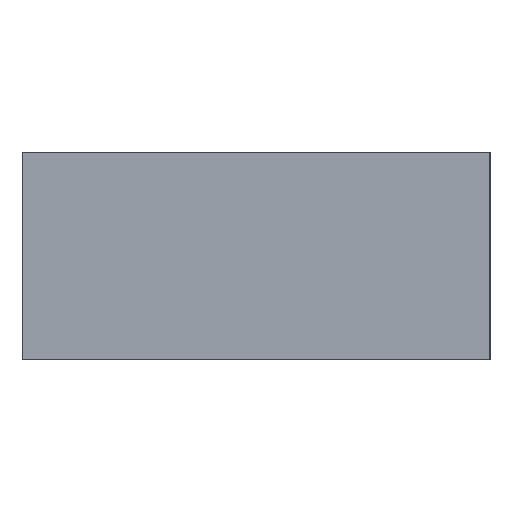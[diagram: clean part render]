
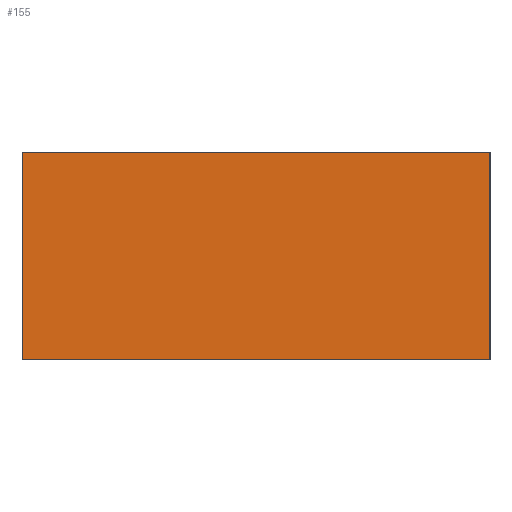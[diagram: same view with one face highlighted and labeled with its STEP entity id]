
A CAD part, left-side view. The second image highlights one B-rep face of the part: STEP entity #155.
In plain terms, the highlighted planar face has unit normal (-1, 0, 0).
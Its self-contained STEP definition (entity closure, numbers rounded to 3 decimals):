
#24=DIRECTION('',(0.,-1.,0.));
#25=VECTOR('',#24,3.);
#26=CARTESIAN_POINT('',(-4.,1.5,0.));
#27=LINE('',#26,#25);
#53=DIRECTION('',(0.,0.,-1.));
#54=VECTOR('',#53,1.33);
#55=CARTESIAN_POINT('',(-4.,1.5,0.));
#56=LINE('',#55,#54);
#60=DIRECTION('',(0.,0.,-1.));
#61=VECTOR('',#60,1.33);
#62=CARTESIAN_POINT('',(-4.,-1.5,0.));
#63=LINE('',#62,#61);
#81=DIRECTION('',(0.,-1.,0.));
#82=VECTOR('',#81,3.);
#83=CARTESIAN_POINT('',(-4.,1.5,-1.33));
#84=LINE('',#83,#82);
#109=CARTESIAN_POINT('',(-4.,1.5,0.));
#110=CARTESIAN_POINT('',(-4.,-1.5,0.));
#111=VERTEX_POINT('',#109);
#112=VERTEX_POINT('',#110);
#117=CARTESIAN_POINT('',(-4.,1.5,-1.33));
#118=CARTESIAN_POINT('',(-4.,-1.5,-1.33));
#119=VERTEX_POINT('',#117);
#120=VERTEX_POINT('',#118);
#141=CARTESIAN_POINT('',(-4.,1.5,0.));
#142=DIRECTION('',(-1.,0.,0.));
#143=DIRECTION('',(0.,-1.,0.));
#144=AXIS2_PLACEMENT_3D('',#141,#142,#143);
#145=PLANE('',#144);
#146=ORIENTED_EDGE('',*,*,#130,.T.);
#148=ORIENTED_EDGE('',*,*,#147,.T.);
#150=ORIENTED_EDGE('',*,*,#149,.F.);
#152=ORIENTED_EDGE('',*,*,#151,.F.);
#153=EDGE_LOOP('',(#146,#148,#150,#152));
#154=FACE_OUTER_BOUND('',#153,.F.);
#130=EDGE_CURVE('',#111,#112,#27,.T.);
#147=EDGE_CURVE('',#112,#120,#63,.T.);
#149=EDGE_CURVE('',#119,#120,#84,.T.);
#151=EDGE_CURVE('',#111,#119,#56,.T.);
#155=ADVANCED_FACE('',(#154),#145,.T.);
